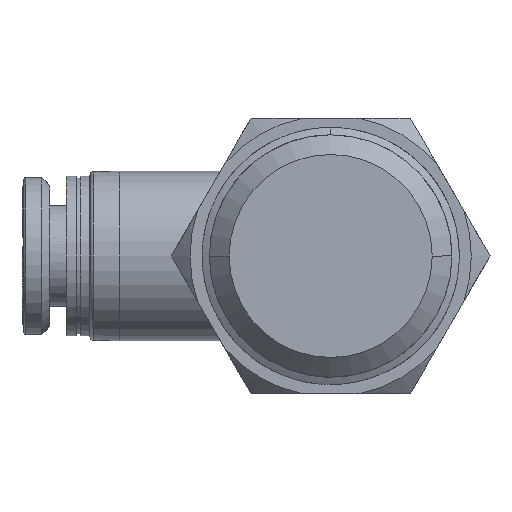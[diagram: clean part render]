
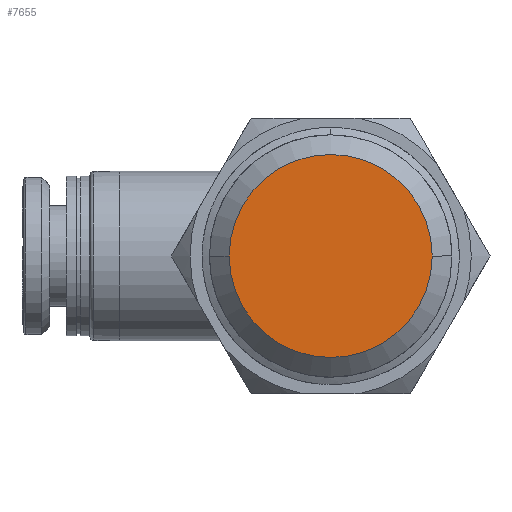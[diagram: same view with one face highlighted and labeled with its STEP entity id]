
A CAD part, front view. The second image highlights one B-rep face of the part: STEP entity #7655.
In plain terms, the highlighted planar face has unit normal (0, -1, 0).
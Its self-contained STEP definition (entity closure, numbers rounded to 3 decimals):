
#155 = VERTEX_POINT ( 'NONE', #1220 ) ;
#1024 = EDGE_CURVE ( 'NONE', #7847, #155, #2340, .T. ) ;
#1220 = CARTESIAN_POINT ( 'NONE',  ( 5.561, -20.1, 0. ) ) ;
#1799 = AXIS2_PLACEMENT_3D ( 'NONE', #2123, #4832, #5600 ) ;
#2024 = EDGE_LOOP ( 'NONE', ( #5350, #6537 ) ) ;
#2123 = CARTESIAN_POINT ( 'NONE',  ( 10.712, -20.1, 0. ) ) ;
#2340 = CIRCLE ( 'NONE', #7129, 5.151 ) ;
#3022 = CIRCLE ( 'NONE', #1799, 5.151 ) ;
#3052 = EDGE_CURVE ( 'NONE', #155, #7847, #3022, .T. ) ;
#3220 = DIRECTION ( 'NONE',  ( 0., 1., 0. ) ) ;
#3945 = CARTESIAN_POINT ( 'NONE',  ( 15.862, -20.1, 0. ) ) ;
#4515 = AXIS2_PLACEMENT_3D ( 'NONE', #3945, #3220, #4576 ) ;
#4576 = DIRECTION ( 'NONE',  ( -1., 0., 0. ) ) ;
#4832 = DIRECTION ( 'NONE',  ( 0., 1., 0. ) ) ;
#5350 = ORIENTED_EDGE ( 'NONE', *, *, #3052, .F. ) ;
#5600 = DIRECTION ( 'NONE',  ( -1., 0., 0. ) ) ;
#5700 = DIRECTION ( 'NONE',  ( -1., 0., 0. ) ) ;
#6450 = DIRECTION ( 'NONE',  ( 0., 1., 0. ) ) ;
#6537 = ORIENTED_EDGE ( 'NONE', *, *, #1024, .F. ) ;
#7129 = AXIS2_PLACEMENT_3D ( 'NONE', #7715, #6450, #5700 ) ;
#7655 = ADVANCED_FACE ( 'NONE', ( #7820 ), #7952, .F. ) ;
#7715 = CARTESIAN_POINT ( 'NONE',  ( 10.712, -20.1, 0. ) ) ;
#7820 = FACE_OUTER_BOUND ( 'NONE', #2024, .T. ) ;
#7847 = VERTEX_POINT ( 'NONE', #8093 ) ;
#7952 = PLANE ( 'NONE',  #4515 ) ;
#8093 = CARTESIAN_POINT ( 'NONE',  ( 15.862, -20.1, 0. ) ) ;
